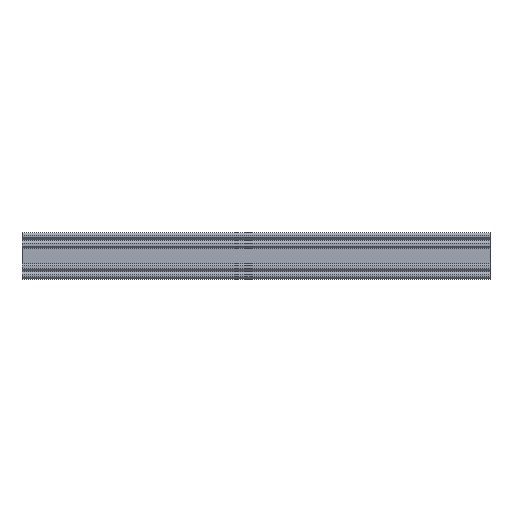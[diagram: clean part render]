
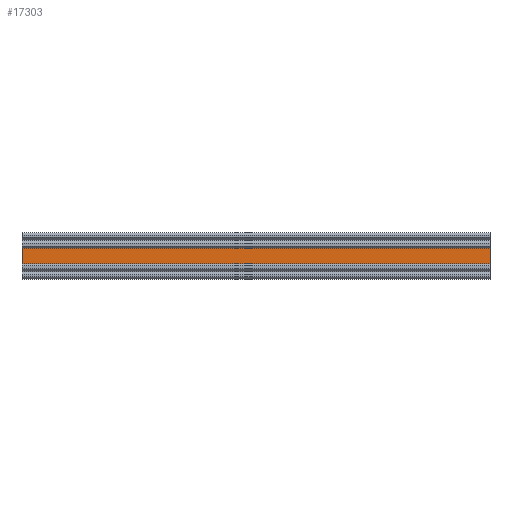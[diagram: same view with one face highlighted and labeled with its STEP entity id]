
A CAD part, left-side view. The second image highlights one B-rep face of the part: STEP entity #17303.
In plain terms, the highlighted planar face has unit normal (-1, 0, 0).
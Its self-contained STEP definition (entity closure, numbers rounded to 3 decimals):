
#50 = DIRECTION ( 'NONE',  ( 1., 0., 0. ) ) ;
#193 = DIRECTION ( 'NONE',  ( 0., 0., -1. ) ) ;
#382 = CARTESIAN_POINT ( 'NONE',  ( -8., 240., -5.525 ) ) ;
#1004 = FACE_OUTER_BOUND ( 'NONE', #39928, .T. ) ;
#4229 = DIRECTION ( 'NONE',  ( 0., 0., -1. ) ) ;
#4236 = CARTESIAN_POINT ( 'NONE',  ( -8., 0., -5.525 ) ) ;
#8997 = ORIENTED_EDGE ( 'NONE', *, *, #15687, .F. ) ;
#9585 = VERTEX_POINT ( 'NONE', #40270 ) ;
#10408 = CARTESIAN_POINT ( 'NONE',  ( -8., 0., 5.525 ) ) ;
#12443 = ORIENTED_EDGE ( 'NONE', *, *, #48623, .T. ) ;
#12448 = VERTEX_POINT ( 'NONE', #382 ) ;
#13331 = VERTEX_POINT ( 'NONE', #29089 ) ;
#14967 = CARTESIAN_POINT ( 'NONE',  ( -8., 0., 5.525 ) ) ;
#15286 = VECTOR ( 'NONE', #193, 1000. ) ;
#15687 = EDGE_CURVE ( 'NONE', #13331, #12448, #26371, .T. ) ;
#17303 = ADVANCED_FACE ( 'NONE', ( #1004 ), #19734, .F. ) ;
#19734 = PLANE ( 'NONE',  #35339 ) ;
#20259 = CARTESIAN_POINT ( 'NONE',  ( -8., 0., 5.525 ) ) ;
#20687 = LINE ( 'NONE', #46308, #48423 ) ;
#23846 = CARTESIAN_POINT ( 'NONE',  ( -8., 0., 5.525 ) ) ;
#23884 = DIRECTION ( 'NONE',  ( 0., 1., 0. ) ) ;
#25049 = VECTOR ( 'NONE', #49709, 1000. ) ;
#25753 = LINE ( 'NONE', #23846, #15286 ) ;
#26371 = LINE ( 'NONE', #4236, #44290 ) ;
#29089 = CARTESIAN_POINT ( 'NONE',  ( -8., 0., -5.525 ) ) ;
#30040 = ORIENTED_EDGE ( 'NONE', *, *, #45133, .F. ) ;
#31041 = ORIENTED_EDGE ( 'NONE', *, *, #47318, .T. ) ;
#31830 = LINE ( 'NONE', #10408, #25049 ) ;
#34489 = VERTEX_POINT ( 'NONE', #14967 ) ;
#35339 = AXIS2_PLACEMENT_3D ( 'NONE', #20259, #50, #4229 ) ;
#38621 = DIRECTION ( 'NONE',  ( 0., 0., -1. ) ) ;
#39928 = EDGE_LOOP ( 'NONE', ( #12443, #8997, #30040, #31041 ) ) ;
#40270 = CARTESIAN_POINT ( 'NONE',  ( -8., 240., 5.525 ) ) ;
#44290 = VECTOR ( 'NONE', #23884, 1000. ) ;
#45133 = EDGE_CURVE ( 'NONE', #34489, #13331, #25753, .T. ) ;
#46308 = CARTESIAN_POINT ( 'NONE',  ( -8., 240., 5.525 ) ) ;
#47318 = EDGE_CURVE ( 'NONE', #34489, #9585, #31830, .T. ) ;
#48423 = VECTOR ( 'NONE', #38621, 1000. ) ;
#48623 = EDGE_CURVE ( 'NONE', #9585, #12448, #20687, .T. ) ;
#49709 = DIRECTION ( 'NONE',  ( 0., 1., 0. ) ) ;
